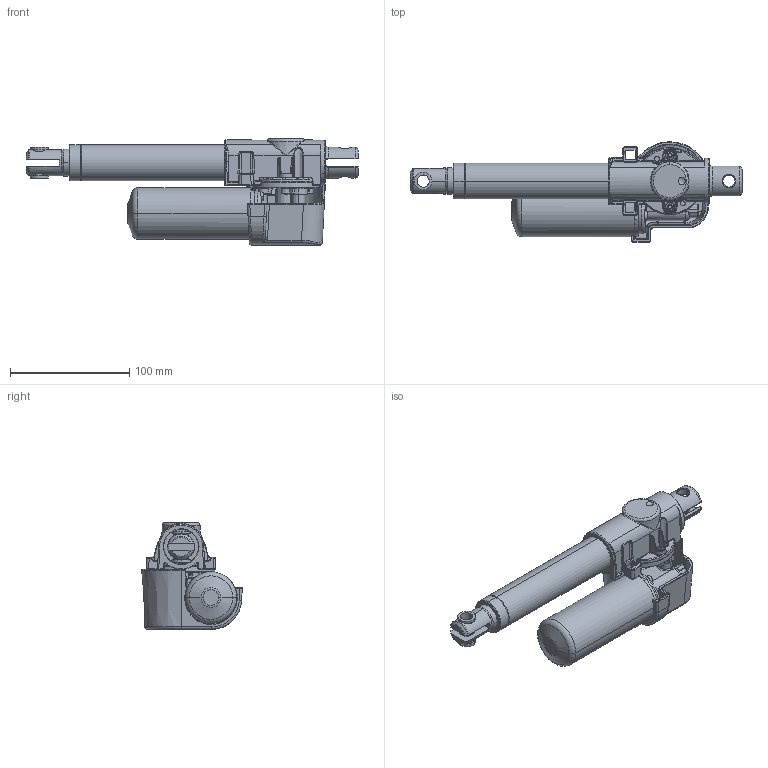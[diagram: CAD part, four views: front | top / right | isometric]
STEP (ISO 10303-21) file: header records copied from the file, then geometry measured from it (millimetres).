
FILE_DESCRIPTION((''),'2;1');
FILE_NAME('028681','2006-02-27T',('KH'),(''),'PRO/ENGINEER BY PARAMETRIC TECHNOLOGY CORPORATION, 2005110','PRO/ENGINEER BY PARAMETRIC TECHNOLOGY CORPORATION, 2005110','');
FILE_SCHEMA(('CONFIG_CONTROL_DESIGN'));
Length unit declared in the file: millimetre
Products named in the file (1): 028681
Bounding box: 277.9 x 84.16 x 89.1 mm (x, y, z)
Volume: 459023.7 mm3; surface area: 95923.1 mm2
Topology: 1 solids, 3 shells, 1612 faces, 4219 edges, 2553 vertices
Faces by surface type: cylinder 562, plane 369, bspline 288, torus 228, cone 86, sphere 79
Entity records: 64446 total; most frequent: CARTESIAN_POINT 24644, ORIENTED_EDGE 8284, DIRECTION 7643, EDGE_CURVE 4142, AXIS2_PLACEMENT_3D 3115, VERTEX_POINT 2553, CIRCLE 1791, EDGE_LOOP 1663
